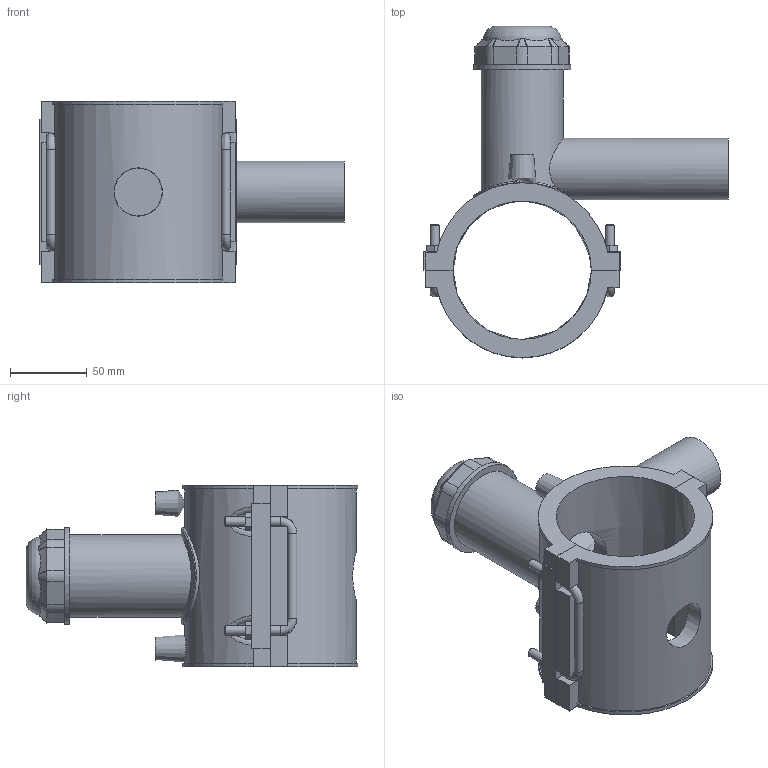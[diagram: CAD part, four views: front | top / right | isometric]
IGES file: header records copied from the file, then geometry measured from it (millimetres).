
Global section: file name: 496304090040.ipt; native system: Autodesk Inventor 2015; preprocessor: unknown; author: KIM; date: 20190124.130752; units: millimetre
Bounding box: 198 x 215.92 x 118 mm (x, y, z)
Volume: 606742.4 mm3; surface area: 158710.8 mm2
Topology: 2 solids, 4 shells, 224 faces, 567 edges, 364 vertices
Faces by surface type: plane 125, cylinder 36, revolution 28, bspline 21, cone 14
Full cylindrical faces by diameter (mm): 4 x2, 6 x8, 40 x1, 53.55 x1, 63 x1
